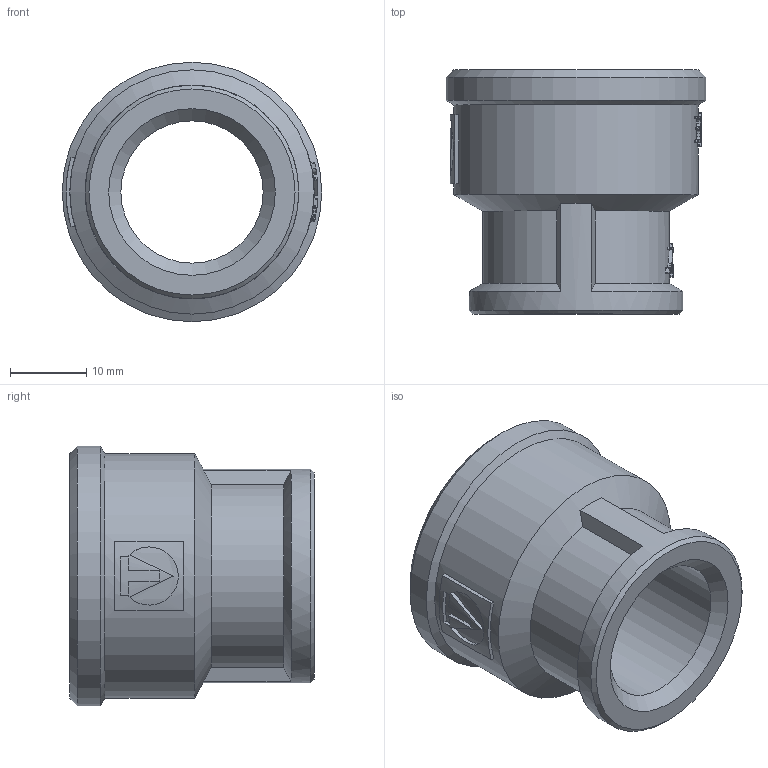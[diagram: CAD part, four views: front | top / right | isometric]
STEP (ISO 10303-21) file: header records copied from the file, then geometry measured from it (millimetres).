
FILE_DESCRIPTION(('STEP AP203'), '1');
FILE_NAME('ÂÐ.714361.003 - VTr.240.N.0504 Ìóôòà G3-4õG1-2', '2024-06-27T08:08:22', ('Boss'), (''), 'C3D Converter', 'C3D Toolkit', '');
FILE_SCHEMA(('CONFIG_CONTROL_DESIGN'));
Length unit declared in the file: millimetre
Products named in the file (1): ВР.714361.003
Bounding box: 34 x 32 x 34 mm (x, y, z)
Volume: 9958.2 mm3; surface area: 6251 mm2
Topology: 1 solids, 1 shells, 235 faces, 655 edges, 434 vertices
Faces by surface type: extrusion 127, plane 78, cylinder 21, cone 9
Full cylindrical faces by diameter (mm): 18.632 x1, 24.118 x1, 28 x1, 32 x1, 34 x1
Entity records: 10047 total; most frequent: CARTESIAN_POINT 4726, ORIENTED_EDGE 1284, DIRECTION 705, EDGE_CURVE 642, VERTEX_POINT 434, B_SPLINE_CURVE_WITH_KNOTS 391, VECTOR 367, EDGE_LOOP 262
